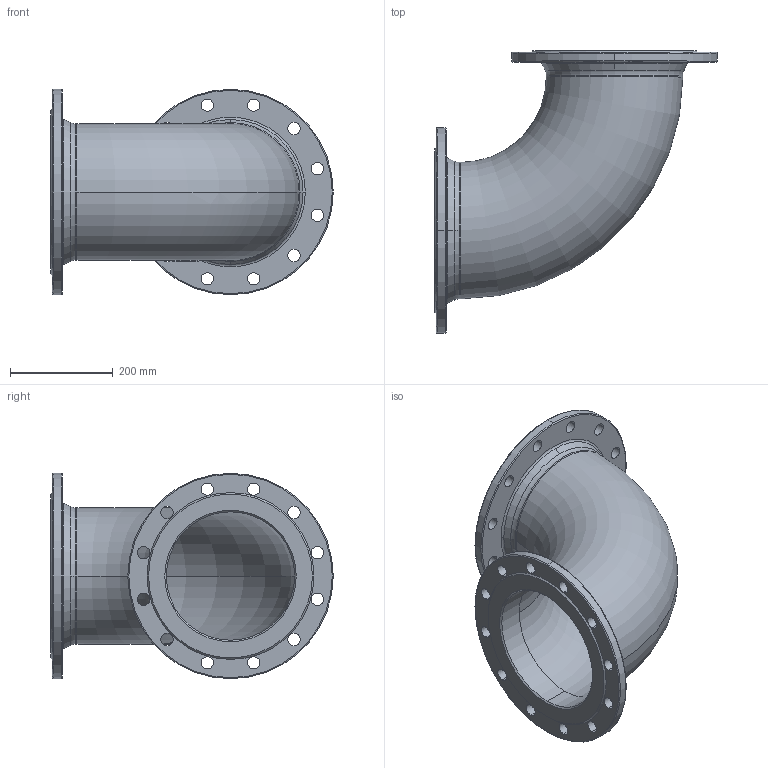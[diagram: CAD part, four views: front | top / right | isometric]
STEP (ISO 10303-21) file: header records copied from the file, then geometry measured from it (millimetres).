
FILE_DESCRIPTION (( 'STEP AP203' ), '1' );
FILE_NAME ('O_712_0610_DN250_0X_REV01.step', '2021-11-19T10:11:01', ( '' ), ( '' ), 'SwSTEP 2.0', 'SolidWorks 2019', '' );
FILE_SCHEMA (( 'CONFIG_CONTROL_DESIGN' ));
Length unit declared in the file: millimetre
Products named in the file (1): O_712_0610_DN250_0X_REV01
Bounding box: 550 x 550 x 400 mm (x, y, z)
Volume: 6486247.6 mm3; surface area: 1226700.4 mm2
Topology: 1 solids, 1 shells, 139 faces, 373 edges, 244 vertices
Faces by surface type: cylinder 62, plane 41, torus 24, cone 12
Entity records: 4740 total; most frequent: CARTESIAN_POINT 1043, DIRECTION 769, ORIENTED_EDGE 746, EDGE_CURVE 373, AXIS2_PLACEMENT_3D 330, VERTEX_POINT 244, EDGE_LOOP 197, CIRCLE 190
